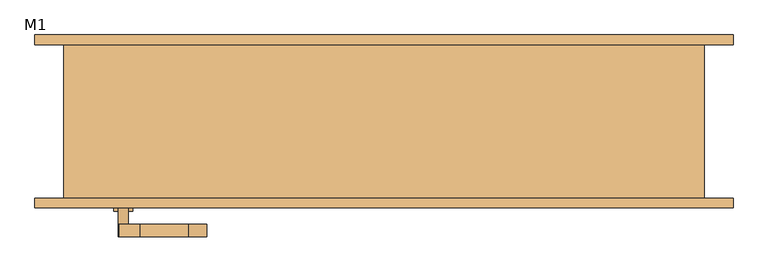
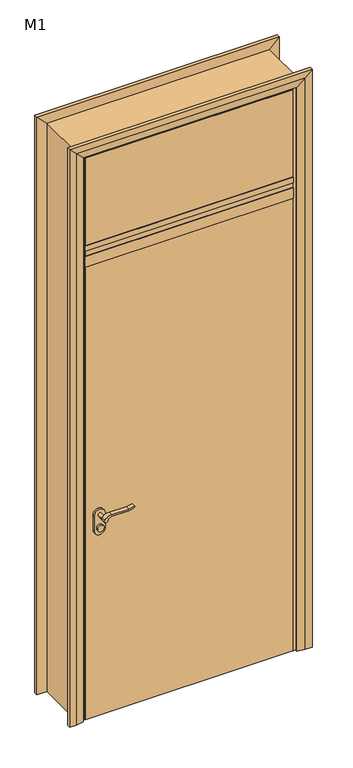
"""IFC4 building model written with IfcOpenShell, lengths in millimetres: door geometry, 单嵌板木门 13 : M1."""

from ifc_helpers import new_model, si_unit, point, frame, frame_2d, origin, origin_with_axes, place, context, project, spatial, polyline, circle_curve, trimmed, segment, composite_curve, outline, extrude, faceted_brep, source, transform, mapped, element, save


def m1_8023598c(model_context):
    return source(origin(), model_context, "Body", "SolidModel", [
        extrude(outline(composite_curve([segment(trimmed(circle_curve(frame_2d((900.0, -407.0)), 15.0), [point((900.0, -392.0))], [point((900.0, -422.0))], False, "CARTESIAN"), True, "CONTINUOUS"), segment(trimmed(circle_curve(frame_2d((900.0, -407.0)), 15.0), [point((900.0, -422.0))], [point((900.0, -392.0))], False, "CARTESIAN"), True, "CONTINUOUS")], self_intersect=False)), frame((0.0, -140.0, 0.0), z_axis=(0.0, 1.0, 0.0), x_axis=(0.0, 0.0, 1.0)), (0.0, 0.0, 1.0), 10.0),
        extrude(outline(composite_curve([segment(trimmed(circle_curve(frame_2d((900.0, -407.0)), 15.0), [point((900.0, -392.0))], [point((900.0, -422.0))], False, "CARTESIAN"), True, "CONTINUOUS"), segment(trimmed(circle_curve(frame_2d((900.0, -407.0)), 15.0), [point((900.0, -422.0))], [point((900.0, -392.0))], False, "CARTESIAN"), True, "CONTINUOUS")], self_intersect=False)), frame((0.0, -60.0, 0.0), z_axis=(0.0, 1.0, 0.0), x_axis=(0.0, 0.0, 1.0)), (0.0, 0.0, 1.0), 10.0),
        extrude(outline(composite_curve([segment(trimmed(circle_curve(frame_2d((960.0, -407.0)), 8.0), [point((964.6523287, -413.5081363))], [point((960.0, -399.0))], False, "CARTESIAN"), True, "CONTINUOUS"), segment(trimmed(circle_curve(frame_2d((954.8738613, -381.6138099)), 18.1261387), [point((960.0, -399.0))], [point((973.0, -381.6138099))], True, "CARTESIAN"), True, "CONTINUOUS"), segment(polyline([(973.0, -381.6138099), (973.0, -305.3564091)]), True, "CONTINUOUS"), segment(trimmed(circle_curve(frame_2d((1032.2709207, -308.9396612)), 59.3791355), [point((973.0, -305.3564091))], [point((982.2135558, -277.0))], False, "CARTESIAN"), True, "CONTINUOUS"), segment(polyline([(982.2135558, -277.0), (985.0, -277.0)]), True, "CONTINUOUS"), segment(trimmed(circle_curve(frame_2d((1063.2850638, -305.4227909)), 83.2850902), [point((985.0, -277.0))], [point((980.0, -305.3564091))], True, "CARTESIAN"), True, "CONTINUOUS"), segment(polyline([(980.0, -305.3564091), (980.0, -381.6325667)]), True, "CONTINUOUS"), segment(trimmed(circle_curve(frame_2d((942.7555521, -383.3324871)), 37.2832219), [point((980.0, -381.6325667))], [point((964.6523287, -413.5081363))], False, "CARTESIAN"), True, "CONTINUOUS")], self_intersect=False)), frame((0.0, -180.0, 0.0), z_axis=(0.0, 1.0, 0.0), x_axis=(0.0, 0.0, 1.0)), (0.0, 0.0, 1.0), 20.0),
        extrude(outline(composite_curve([segment(trimmed(circle_curve(frame_2d((954.8738682, -381.6138122)), 18.1261318), [point((959.9999903, -399.0))], [point((973.0, -381.6138122))], True, "CARTESIAN"), True, "CONTINUOUS"), segment(polyline([(973.0, -381.6138122), (973.0, -305.3564091)]), True, "CONTINUOUS"), segment(trimmed(circle_curve(frame_2d((1032.2709207, -308.9396612)), 59.3791355), [point((973.0, -305.3564091))], [point((982.2135558, -277.0))], False, "CARTESIAN"), True, "CONTINUOUS"), segment(polyline([(982.2135558, -277.0), (985.0, -277.0)]), True, "CONTINUOUS"), segment(trimmed(circle_curve(frame_2d((1063.2850638, -305.4227909)), 83.2850902), [point((985.0, -277.0))], [point((980.0, -305.3564091))], True, "CARTESIAN"), True, "CONTINUOUS"), segment(polyline([(980.0, -305.3564091), (980.0, -381.6325667)]), True, "CONTINUOUS"), segment(trimmed(circle_curve(frame_2d((942.7555521, -383.3324871)), 37.2832219), [point((980.0, -381.6325667))], [point((964.6523287, -413.5081363))], False, "CARTESIAN"), True, "CONTINUOUS"), segment(trimmed(circle_curve(frame_2d((960.0, -407.0)), 8.0), [point((964.6523287, -413.5081363))], [point((959.9999903, -399.0))], False, "CARTESIAN"), True, "CONTINUOUS")], self_intersect=False)), frame((0.0, -30.0, 0.0), z_axis=(0.0, 1.0, 0.0), x_axis=(0.0, 0.0, 1.0)), (0.0, 0.0, 1.0), 20.0),
        extrude(outline(composite_curve([segment(trimmed(circle_curve(frame_2d((960.0, -407.0)), 8.0), [point((960.0, -399.0))], [point((960.0, -415.0))], False, "CARTESIAN"), True, "CONTINUOUS"), segment(trimmed(circle_curve(frame_2d((960.0, -407.0)), 8.0), [point((960.0, -415.0))], [point((960.0, -399.0))], False, "CARTESIAN"), True, "CONTINUOUS")], self_intersect=False)), frame((0.0, -160.0, 0.0), z_axis=(0.0, 1.0, 0.0), x_axis=(0.0, 0.0, 1.0)), (0.0, 0.0, 1.0), 30.0),
        extrude(outline(composite_curve([segment(trimmed(circle_curve(frame_2d((960.0, -407.0)), 8.0), [point((960.0, -399.0))], [point((960.0, -415.0))], False, "CARTESIAN"), True, "CONTINUOUS"), segment(trimmed(circle_curve(frame_2d((960.0, -407.0)), 8.0), [point((960.0, -415.0))], [point((960.0, -399.0))], False, "CARTESIAN"), True, "CONTINUOUS")], self_intersect=False)), frame((0.0, -60.0, 0.0), z_axis=(0.0, 1.0, 0.0), x_axis=(0.0, 0.0, 1.0)), (0.0, 0.0, 1.0), 30.0),
        extrude(outline(composite_curve([segment(trimmed(circle_curve(frame_2d((890.0, -407.0)), 25.0), [point((890.0, -432.0))], [point((890.0, -382.0))], False, "CARTESIAN"), True, "CONTINUOUS"), segment(polyline([(890.0, -382.0), (960.0, -382.0)]), True, "CONTINUOUS"), segment(trimmed(circle_curve(frame_2d((960.0, -407.0)), 25.0), [point((960.0, -382.0))], [point((960.0, -432.0))], False, "CARTESIAN"), True, "CONTINUOUS"), segment(polyline([(960.0, -432.0), (890.0, -432.0)]), True, "CONTINUOUS")], self_intersect=False)), frame((0.0, -130.0, 0.0), z_axis=(0.0, 1.0, 0.0), x_axis=(0.0, 0.0, 1.0)), (0.0, 0.0, 1.0), 10.0),
        extrude(outline(composite_curve([segment(trimmed(circle_curve(frame_2d((890.0, -407.0)), 25.0), [point((890.0, -432.0))], [point((890.0, -382.0))], False, "CARTESIAN"), True, "CONTINUOUS"), segment(polyline([(890.0, -382.0), (960.0, -382.0)]), True, "CONTINUOUS"), segment(trimmed(circle_curve(frame_2d((960.0, -407.0)), 25.0), [point((960.0, -382.0))], [point((960.0, -432.0))], False, "CARTESIAN"), True, "CONTINUOUS"), segment(polyline([(960.0, -432.0), (890.0, -432.0)]), True, "CONTINUOUS")], self_intersect=False)), frame((0.0, -70.0, 0.0), z_axis=(0.0, 1.0, 0.0), x_axis=(0.0, 0.0, 1.0)), (0.0, 0.0, 1.0), 10.0),
        extrude(outline(polyline([(-467.0, -123.0), (-467.0, -67.0), (467.0, -67.0), (467.0, -123.0), (-467.0, -123.0)])), frame((0.0, 0.0, 2152.0), z_axis=(0.0, 0.0, 1.0), x_axis=(1.0, 0.0, 0.0)), (0.0, 0.0, 1.0), 50.0),
        extrude(outline(polyline([(-467.0, -123.0), (-467.0, -67.0), (467.0, -67.0), (467.0, -123.0), (-467.0, -123.0)])), frame((0.0, 0.0, 2227.0), z_axis=(0.0, 0.0, 1.0), x_axis=(1.0, 0.0, 0.0)), (0.0, 0.0, 1.0), 25.0),
        faceted_brep([(-470.0, -120.0, 0.0), (-500.0, -120.0, 0.0), (-500.0, 120.0, 0.0), (-455.0, 120.0, 0.0), (-455.0, -67.0, 0.0), (-470.0, -67.0, 0.0), (-470.0, -67.0, 2670.0), (-470.0, -120.0, 2670.0), (-455.0, -67.0, 2655.0), (-455.0, 120.0, 2655.0), (-500.0, 120.0, 2700.0), (-500.0, -120.0, 2700.0), (470.0, -67.0, 2670.0), (470.0, -120.0, 2670.0), (455.0, -67.0, 2655.0), (455.0, 120.0, 2655.0), (500.0, 120.0, 2700.0), (500.0, -120.0, 2700.0), (470.0, -120.0, 0.0), (470.0, -67.0, 0.0), (455.0, -67.0, 0.0), (455.0, 120.0, 0.0), (500.0, 120.0, 0.0), (500.0, -120.0, 0.0)], [[[0, 1, 2, 3, 4, 5]], [[5, 6, 7, 0]], [[4, 8, 6, 5]], [[3, 9, 8, 4]], [[2, 10, 9, 3]], [[1, 11, 10, 2]], [[0, 7, 11, 1]], [[6, 12, 13, 7]], [[8, 14, 12, 6]], [[9, 15, 14, 8]], [[10, 16, 15, 9]], [[11, 17, 16, 10]], [[7, 13, 17, 11]], [[18, 19, 20, 21, 22, 23]], [[12, 19, 18, 13]], [[14, 20, 19, 12]], [[15, 21, 20, 14]], [[16, 22, 21, 15]], [[17, 23, 22, 16]], [[13, 18, 23, 17]]]),
        extrude(outline(polyline([(467.0, -70.0), (467.0, -120.0), (-467.0, -120.0), (-467.0, -70.0), (467.0, -70.0)])), frame((0.0, 0.0, 2252.0), z_axis=(0.0, 0.0, 1.0), x_axis=(1.0, 0.0, 0.0)), (0.0, 0.0, 1.0), 415.0),
        extrude(outline(polyline([(467.0, -70.0), (467.0, -120.0), (-467.0, -120.0), (-467.0, -70.0), (467.0, -70.0)])), origin_with_axes(), (0.0, 0.0, 1.0), 2152.0),
        extrude(outline(polyline([(467.0, -70.0), (467.0, -120.0), (-467.0, -120.0), (-467.0, -70.0), (467.0, -70.0)])), frame((0.0, 0.0, 2202.0), z_axis=(0.0, 0.0, 1.0), x_axis=(1.0, 0.0, 0.0)), (0.0, 0.0, 1.0), 25.0),
        faceted_brep([(-545.0, -120.0, 0.0), (-480.0, -120.0, 0.0), (-480.0, -130.0, 0.0), (-515.0, -135.0, 0.0), (-545.0, -135.0, 0.0), (-545.0, -135.0, 2745.0), (-545.0, -120.0, 2745.0), (-515.0, -135.0, 2715.0), (-480.0, -130.0, 2680.0), (-480.0, -120.0, 2680.0), (545.0, -135.0, 2745.0), (545.0, -120.0, 2745.0), (515.0, -135.0, 2715.0), (480.0, -130.0, 2680.0), (480.0, -120.0, 2680.0), (545.0, -120.0, 0.0), (545.0, -135.0, 0.0), (515.0, -135.0, 0.0), (480.0, -130.0, 0.0), (480.0, -120.0, 0.0)], [[[0, 1, 2, 3, 4]], [[4, 5, 6, 0]], [[3, 7, 5, 4]], [[2, 8, 7, 3]], [[1, 9, 8, 2]], [[0, 6, 9, 1]], [[5, 10, 11, 6]], [[7, 12, 10, 5]], [[8, 13, 12, 7]], [[9, 14, 13, 8]], [[6, 11, 14, 9]], [[15, 16, 17, 18, 19]], [[10, 16, 15, 11]], [[12, 17, 16, 10]], [[13, 18, 17, 12]], [[14, 19, 18, 13]], [[11, 15, 19, 14]]]),
        faceted_brep([(-480.0, 130.0, 0.0), (-480.0, 120.0, 0.0), (-545.0, 120.0, 0.0), (-545.0, 135.0, 0.0), (-515.0, 135.0, 0.0), (-515.0, 135.0, 2715.0), (-480.0, 130.0, 2680.0), (-545.0, 135.0, 2745.0), (-545.0, 120.0, 2745.0), (-480.0, 120.0, 2680.0), (515.0, 135.0, 2715.0), (480.0, 130.0, 2680.0), (545.0, 135.0, 2745.0), (545.0, 120.0, 2745.0), (480.0, 120.0, 2680.0), (480.0, 130.0, 0.0), (515.0, 135.0, 0.0), (545.0, 135.0, 0.0), (545.0, 120.0, 0.0), (480.0, 120.0, 0.0)], [[[0, 1, 2, 3, 4]], [[4, 5, 6, 0]], [[3, 7, 5, 4]], [[2, 8, 7, 3]], [[1, 9, 8, 2]], [[0, 6, 9, 1]], [[5, 10, 11, 6]], [[7, 12, 10, 5]], [[8, 13, 12, 7]], [[9, 14, 13, 8]], [[6, 11, 14, 9]], [[15, 16, 17, 18, 19]], [[10, 16, 15, 11]], [[12, 17, 16, 10]], [[13, 18, 17, 12]], [[14, 19, 18, 13]], [[11, 15, 19, 14]]]),
    ])


if __name__ == "__main__":
    model = new_model("IFC4")
    model_context = context("Model", 3, world=origin())
    ifc_project = project(units=[si_unit("LENGTHUNIT", "METRE", prefix="MILLI")], contexts=[model_context])
    site = spatial("IfcSite", under=ifc_project)
    building = spatial("IfcBuilding", under=site)
    placement = place(None, origin())
    m1_shape = m1_8023598c(model_context)
    element("IfcDoor", 1, ObjectType="单嵌板木门 13 : M1", at=placement, inside=building, context=model_context, shape_type="MappedRepresentation", body=[
        mapped(m1_shape, transform((0.0, 0.0, 0.0), x_axis=(1.0, 0.0, 0.0), y_axis=(0.0, 1.0, 0.0), z_axis=(0.0, 0.0, 1.0))),
    ])
    save(model, "model.ifc")
